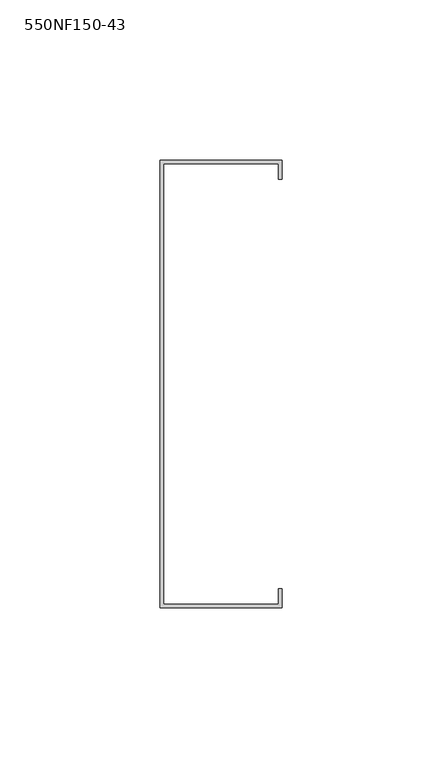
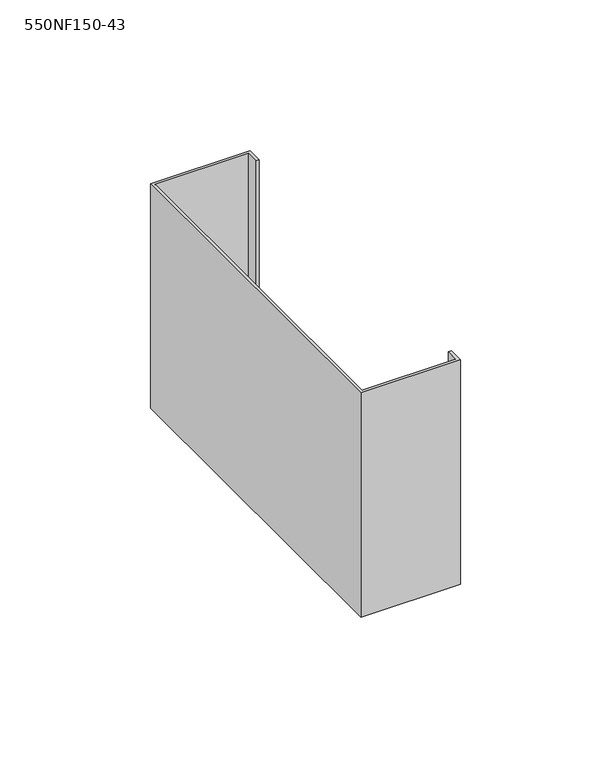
"""IFC4 building model written with IfcOpenShell, lengths in millimetres: column geometry, BIMSF-SSMA-S-Column : 550NF150-43."""

from ifc_helpers import new_model, si_unit, frame, origin, place, context, project, spatial, polyline, outline, extrude, source, transform, mapped, element, save


def column_550nf150_43_131e8932(model_context):
    return source(origin(), model_context, "Body", "SweptSolid", [
        extrude(outline(polyline([(-11.9977877, -80.5871249), (-11.9977877, 59.1128751), (26.1022123, 59.1128751), (26.1022123, 53.1879908), (24.952528, 53.1879908), (24.952528, 57.9631908), (-10.8481035, 57.9631908), (-10.8481035, -79.4374407), (24.952528, -79.4374407), (24.952528, -74.6622407), (26.1022123, -74.6622407), (26.1022123, -80.5871249), (-11.9977877, -80.5871249)])), frame((0.0, 0.0, 5525.3929688), z_axis=(0.0, 0.0, 1.0), x_axis=(1.0, 0.0, 0.0)), (0.0, 0.0, 1.0), 90.982895),
    ])


if __name__ == "__main__":
    model = new_model("IFC4")
    model_context = context("Model", 3, world=origin())
    ifc_project = project(units=[si_unit("LENGTHUNIT", "METRE", prefix="MILLI")], contexts=[model_context])
    site = spatial("IfcSite", under=ifc_project)
    building = spatial("IfcBuilding", under=site)
    placement = place(None, origin())
    column_550nf150_43_shape = column_550nf150_43_131e8932(model_context)
    element("IfcColumn", 1, ObjectType="BIMSF-SSMA-S-Column : 550NF150-43", at=placement, inside=building, context=model_context, shape_type="MappedRepresentation", body=[
        mapped(column_550nf150_43_shape, transform((0.0, 0.0, 0.0), x_axis=(1.0, 0.0, 0.0), y_axis=(0.0, 1.0, 0.0), z_axis=(0.0, 0.0, 1.0))),
    ])
    save(model, "model.ifc")
